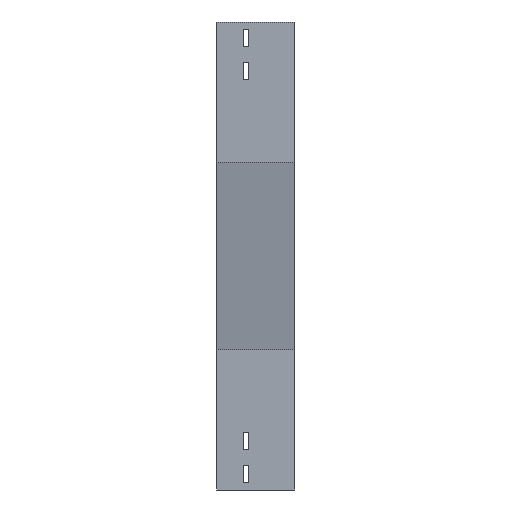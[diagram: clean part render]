
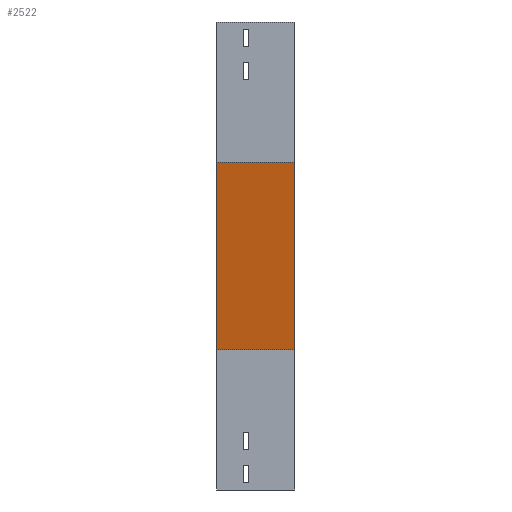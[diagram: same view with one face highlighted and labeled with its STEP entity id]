
A CAD part, left-side view. The second image highlights one B-rep face of the part: STEP entity #2522.
In plain terms, the highlighted planar face has unit normal (-0.979, 0, -0.204).
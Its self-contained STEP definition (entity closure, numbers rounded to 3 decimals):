
#30 = VECTOR ( 'NONE', #1611, 1000. ) ;
#78 = VECTOR ( 'NONE', #3200, 1000. ) ;
#333 = VECTOR ( 'NONE', #1712, 1000. ) ;
#353 = CARTESIAN_POINT ( 'NONE',  ( 50., 0., -420. ) ) ;
#421 = ORIENTED_EDGE ( 'NONE', *, *, #1421, .F. ) ;
#678 = EDGE_CURVE ( 'NONE', #3286, #2891, #806, .T. ) ;
#768 = DIRECTION ( 'NONE',  ( 0.204, 0., -0.979 ) ) ;
#781 = CARTESIAN_POINT ( 'NONE',  ( 50., 0., -420. ) ) ;
#787 = FACE_OUTER_BOUND ( 'NONE', #3688, .T. ) ;
#806 = LINE ( 'NONE', #2275, #1850 ) ;
#817 = VERTEX_POINT ( 'NONE', #2070 ) ;
#1013 = LINE ( 'NONE', #3149, #30 ) ;
#1201 = VERTEX_POINT ( 'NONE', #781 ) ;
#1421 = EDGE_CURVE ( 'NONE', #1201, #2891, #1903, .T. ) ;
#1611 = DIRECTION ( 'NONE',  ( 0., -1., 0. ) ) ;
#1707 = DIRECTION ( 'NONE',  ( 0.204, 0., -0.979 ) ) ;
#1712 = DIRECTION ( 'NONE',  ( 0.204, 0., -0.979 ) ) ;
#1850 = VECTOR ( 'NONE', #768, 1000. ) ;
#1903 = LINE ( 'NONE', #353, #78 ) ;
#1942 = EDGE_CURVE ( 'NONE', #817, #1201, #3815, .T. ) ;
#2017 = PLANE ( 'NONE',  #3303 ) ;
#2056 = CARTESIAN_POINT ( 'NONE',  ( 0., 0., -180. ) ) ;
#2070 = CARTESIAN_POINT ( 'NONE',  ( 0., 0., -180. ) ) ;
#2077 = ORIENTED_EDGE ( 'NONE', *, *, #678, .T. ) ;
#2275 = CARTESIAN_POINT ( 'NONE',  ( 0., 100., -180. ) ) ;
#2504 = ORIENTED_EDGE ( 'NONE', *, *, #3495, .F. ) ;
#2522 = ADVANCED_FACE ( 'NONE', ( #787 ), #2017, .F. ) ;
#2891 = VERTEX_POINT ( 'NONE', #3485 ) ;
#3149 = CARTESIAN_POINT ( 'NONE',  ( 0., 0., -180. ) ) ;
#3187 = CARTESIAN_POINT ( 'NONE',  ( 0., 0., -180. ) ) ;
#3200 = DIRECTION ( 'NONE',  ( 0., 1., 0. ) ) ;
#3250 = DIRECTION ( 'NONE',  ( 0.979, 0., 0.204 ) ) ;
#3286 = VERTEX_POINT ( 'NONE', #3337 ) ;
#3303 = AXIS2_PLACEMENT_3D ( 'NONE', #3187, #3250, #1707 ) ;
#3337 = CARTESIAN_POINT ( 'NONE',  ( 0., 100., -180. ) ) ;
#3485 = CARTESIAN_POINT ( 'NONE',  ( 50., 100., -420. ) ) ;
#3495 = EDGE_CURVE ( 'NONE', #3286, #817, #1013, .T. ) ;
#3688 = EDGE_LOOP ( 'NONE', ( #3907, #2504, #2077, #421 ) ) ;
#3815 = LINE ( 'NONE', #2056, #333 ) ;
#3907 = ORIENTED_EDGE ( 'NONE', *, *, #1942, .F. ) ;
